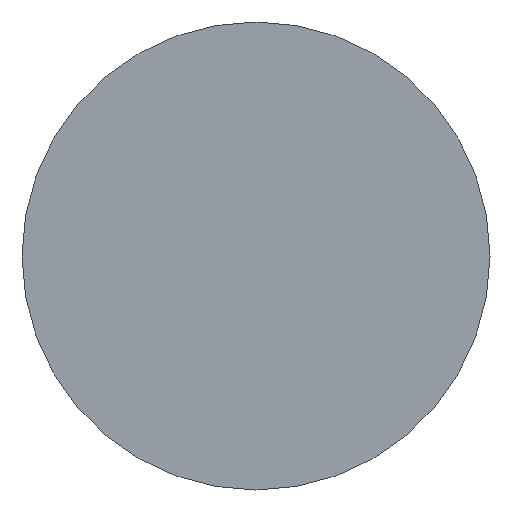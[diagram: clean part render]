
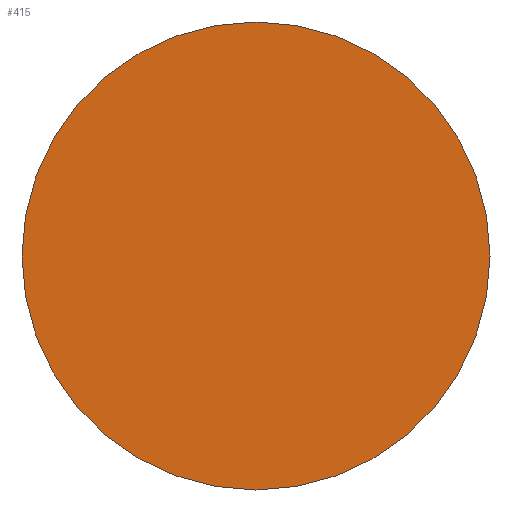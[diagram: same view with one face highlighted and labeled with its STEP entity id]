
A CAD part, front view. The second image highlights one B-rep face of the part: STEP entity #415.
In plain terms, the highlighted planar face has unit normal (0, -1, 0).
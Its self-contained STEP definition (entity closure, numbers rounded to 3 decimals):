
#87=FACE_OUTER_BOUND('',#116,.T.);
#116=EDGE_LOOP('',(#274));
#152=CIRCLE('',#469,41.5);
#178=VERTEX_POINT('',#659);
#217=EDGE_CURVE('',#178,#178,#152,.T.);
#274=ORIENTED_EDGE('',*,*,#217,.T.);
#388=PLANE('',#468);
#415=ADVANCED_FACE('',(#87),#388,.T.);
#468=AXIS2_PLACEMENT_3D('',#658,#527,#528);
#469=AXIS2_PLACEMENT_3D('',#660,#529,#530);
#527=DIRECTION('center_axis',(0.,-1.,0.));
#528=DIRECTION('ref_axis',(0.,0.,-1.));
#529=DIRECTION('center_axis',(0.,-1.,0.));
#530=DIRECTION('ref_axis',(0.,0.,-1.));
#658=CARTESIAN_POINT('Origin',(41.5,0.,0.));
#659=CARTESIAN_POINT('',(0.,0.,41.5));
#660=CARTESIAN_POINT('Origin',(0.,0.,0.));
